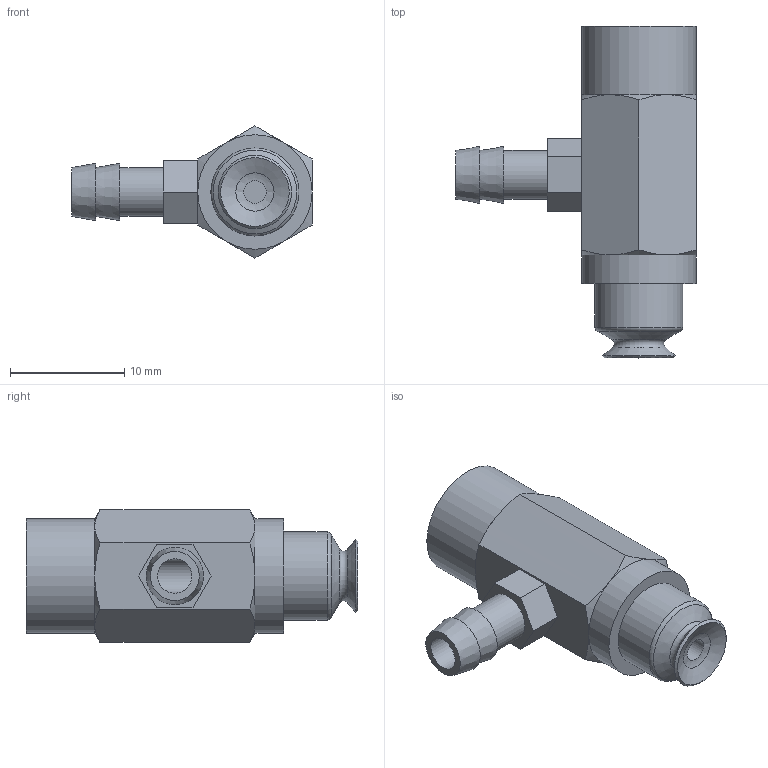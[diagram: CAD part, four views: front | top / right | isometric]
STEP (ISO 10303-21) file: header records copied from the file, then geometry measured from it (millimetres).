
FILE_DESCRIPTION(('STEP AP203'),'1');
FILE_NAME('.stp','2025-04-07T02:07:42',(' '),(' '),'Spatial InterOp 3D',' ',' ');
FILE_SCHEMA(('CONFIG_CONTROL_DESIGN'));
Length unit declared in the file: millimetre
Products named in the file (3): BBPFYK-6A-※; PFYK-5A; BPFG-6A-※
Assembly tree (2 placements, depth 2):
  BBPFYK-6A-※
    PFYK-5A
    BPFG-6A-※
Bounding box: 21 x 29 x 11.55 mm (x, y, z)
Volume: 2012 mm3; surface area: 1901.4 mm2
Topology: 2 solids, 2 shells, 72 faces, 153 edges, 93 vertices
Faces by surface type: plane 27, cone 21, cylinder 14, torus 9, bspline 1
Full cylindrical faces by diameter (mm): 2 x1, 3 x2, 3.242 x1, 4 x2, 4.26 x1, 5 x1, 6 x2, 7.7 x1, 10 x2
Entity records: 2045 total; most frequent: CARTESIAN_POINT 564, DIRECTION 284, ORIENTED_EDGE 218, AXIS2_PLACEMENT_3D 129, EDGE_LOOP 115, EDGE_CURVE 109, FACE_OUTER_BOUND 94, VERTEX_POINT 83
